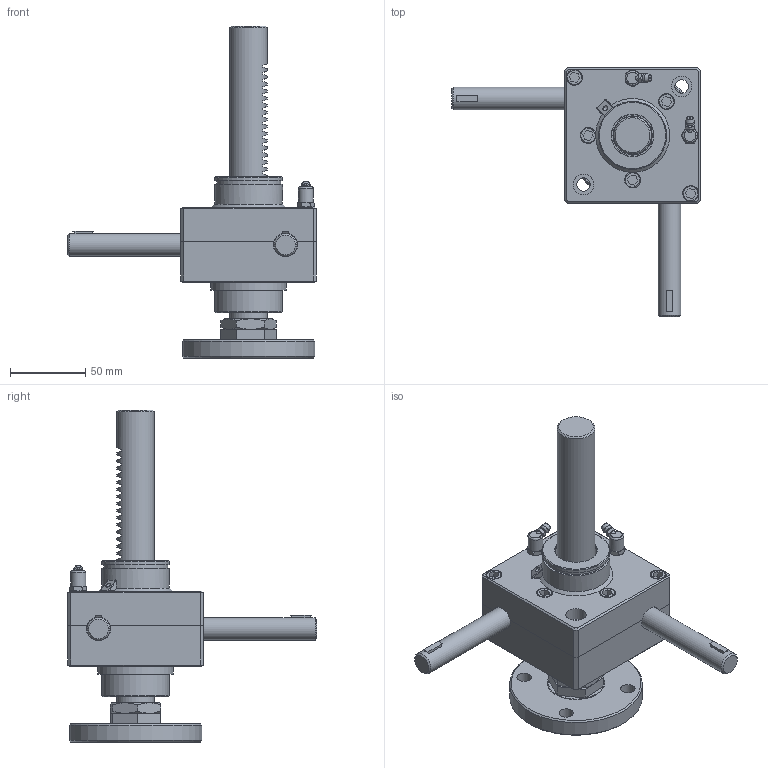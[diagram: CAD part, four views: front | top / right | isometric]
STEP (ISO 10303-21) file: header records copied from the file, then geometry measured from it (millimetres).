
FILE_DESCRIPTION(('STEP AP203'),'1');
FILE_NAME('SP1-500FU-100ST.stp','2022-06-15T04:48:52',(' '),(' '),'Spatial InterOp 3D',' ',' ');
FILE_SCHEMA(('CONFIG_CONTROL_DESIGN'));
Length unit declared in the file: millimetre
Products named in the file (19): SP1-500FU-100ST; Rack Gear(SP-500F); Flange-Part; Nut; Joint; Flange; Body-Part; key; Bolt; Nipple; Shaft(SP1-500); Gear Box(Upper); Gear Box(Lower); Part1.4; RJ05-4SCJ-610X600-100ST_CAP; LABEL-B.1; ___; 파트18; __ SP500
Assembly tree (25 placements, depth 5):
  SP1-500FU-100ST
    Rack Gear(SP-500F)
    Flange-Part
      Nut
      Joint
      Flange
    Body-Part
      key  x2
      Bolt  x5
      Nipple  x2
      Shaft(SP1-500)  x2
      Gear Box(Upper)
      Gear Box(Lower)
        Part1.4
    __ SP500
      ___
        RJ05-4SCJ-610X600-100ST_CAP
          LABEL-B.1
        파트18
Bounding box: 165 x 165.22 x 220 mm (x, y, z)
Volume: 467541.4 mm3; surface area: 153846.8 mm2
Topology: 26 solids, 26 shells, 2332 faces, 6549 edges, 4337 vertices
Faces by surface type: plane 2059, cylinder 149, revolution 42, cone 38, extrusion 38, bspline 5, sphere 1
Full cylindrical faces by diameter (mm): 4.8 x2, 6 x12, 7 x5, 9 x4, 9.5 x4, 9.886 x2, 10.5 x10, 13.5 x2, 15 x2, 23 x1, 25 x3, 26 x2, 27 x1, 28 x2, 28.3 x2, 29.5 x2, 37 x1, 38 x1, 42.5 x1, 44 x1, 45 x4, 50 x1, 88 x1
Entity records: 71628 total; most frequent: CARTESIAN_POINT 13777, ORIENTED_EDGE 12174, DIRECTION 10852, EDGE_CURVE 6087, VECTOR 5547, LINE 5528, VERTEX_POINT 4089, AXIS2_PLACEMENT_3D 2642
